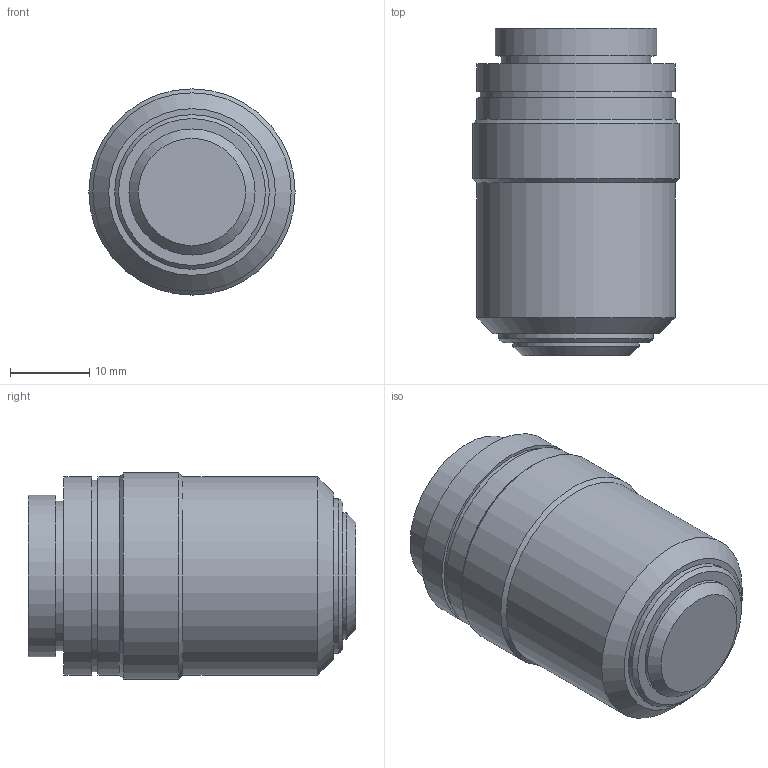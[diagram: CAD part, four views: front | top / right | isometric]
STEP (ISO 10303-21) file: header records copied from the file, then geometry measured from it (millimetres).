
FILE_DESCRIPTION((''),'2;1');
FILE_NAME('T:\Public\7_3次元データ\1図面ﾃﾞｰﾀ\7_素子\ＭＥオプティクス\長作動対物レンズ(EPL・EPLE)\ELPE\EPLE-50\EPL-50.stp','2009-04-22T09:38:24',('okegawa'),(''),'Autodesk Inventor 2008','Autodesk Inventor 2008','');
FILE_SCHEMA(('AUTOMOTIVE_DESIGN { 1 0 10303 214 1 1 1 1 }'));
Length unit declared in the file: millimetre
Products named in the file (1): EPL-50
Bounding box: 26 x 41.3 x 26 mm (x, y, z)
Volume: 18864.3 mm3; surface area: 4147.5 mm2
Topology: 1 solids, 1 shells, 22 faces, 35 edges, 21 vertices
Faces by surface type: cylinder 9, plane 8, cone 5
Full cylindrical faces by diameter (mm): 15.9 x1, 18.81 x1, 19.5 x1, 20.36 x1, 24.2 x1, 25 x3, 26 x1
Entity records: 460 total; most frequent: DIRECTION 88, CARTESIAN_POINT 65, AXIS2_PLACEMENT_3D 44, ORIENTED_EDGE 42, EDGE_LOOP 42, FACE_OUTER_BOUND 22, ADVANCED_FACE 22, VERTEX_POINT 21
